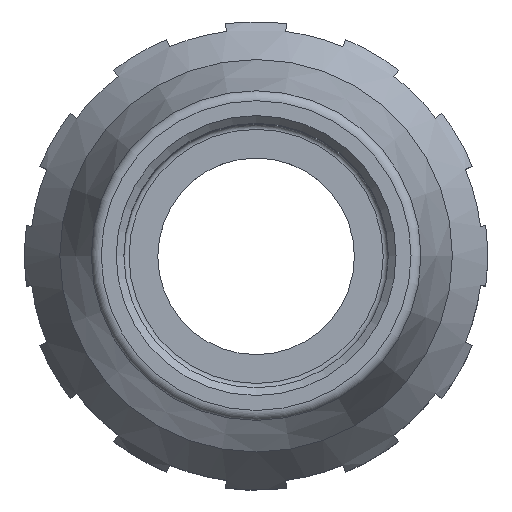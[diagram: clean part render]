
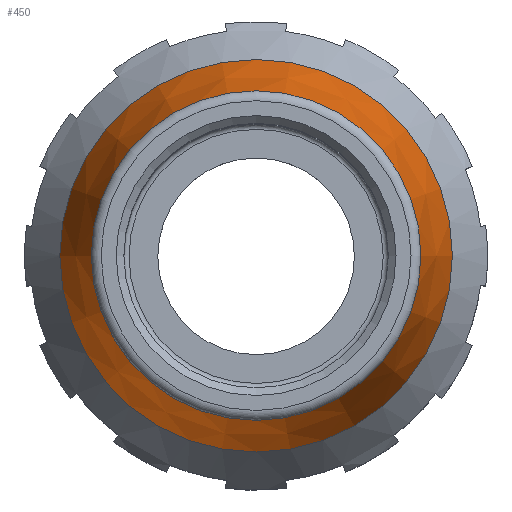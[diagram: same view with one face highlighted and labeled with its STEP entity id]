
A CAD part, top view. The second image highlights one B-rep face of the part: STEP entity #450.
In plain terms, the highlighted conical face has half-angle 15.392 degrees and reference radius 16.324 mm.
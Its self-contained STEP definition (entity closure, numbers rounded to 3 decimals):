
#450 = ADVANCED_FACE( '', ( #990, #991 ), #992, .T. );
#990 = FACE_OUTER_BOUND( '', #2103, .T. );
#991 = FACE_BOUND( '', #2104, .T. );
#992 = CONICAL_SURFACE( '', #2105, 16.324, 0.269 );
#2103 = EDGE_LOOP( '', ( #3728 ) );
#2104 = EDGE_LOOP( '', ( #3729 ) );
#2105 = AXIS2_PLACEMENT_3D( '', #3730, #3731, #3732 );
#3728 = ORIENTED_EDGE( '', *, *, #4910, .T. );
#3729 = ORIENTED_EDGE( '', *, *, #4966, .F. );
#3730 = CARTESIAN_POINT( '', ( 0., 0., 10.474 ) );
#3731 = DIRECTION( '', ( 0., 0., -1. ) );
#3732 = DIRECTION( '', ( -1., 0., 0. ) );
#4910 = EDGE_CURVE( '', #5789, #5789, #5790, .T. );
#4966 = EDGE_CURVE( '', #5868, #5868, #5869, .T. );
#5789 = VERTEX_POINT( '', #7366 );
#5790 = CIRCLE( '', #7367, 19.077 );
#5868 = VERTEX_POINT( '', #7470 );
#5869 = CIRCLE( '', #7471, 16.018 );
#7366 = CARTESIAN_POINT( '', ( -19.077, 0., 0.472 ) );
#7367 = AXIS2_PLACEMENT_3D( '', #8612, #8613, #8614 );
#7470 = CARTESIAN_POINT( '', ( 16.018, 0., 11.585 ) );
#7471 = AXIS2_PLACEMENT_3D( '', #8697, #8698, #8699 );
#8612 = CARTESIAN_POINT( '', ( 0., 0., 0.472 ) );
#8613 = DIRECTION( '', ( 0., 0., 1. ) );
#8614 = DIRECTION( '', ( -1., 0., 0. ) );
#8697 = CARTESIAN_POINT( '', ( 0., 0., 11.585 ) );
#8698 = DIRECTION( '', ( 0., 0., 1. ) );
#8699 = DIRECTION( '', ( 1., 0., 0. ) );
